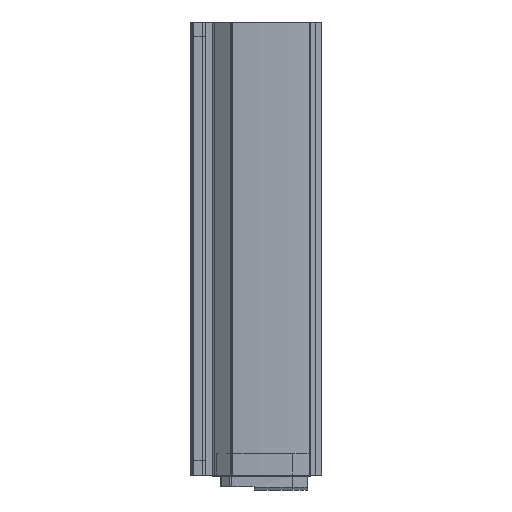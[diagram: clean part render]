
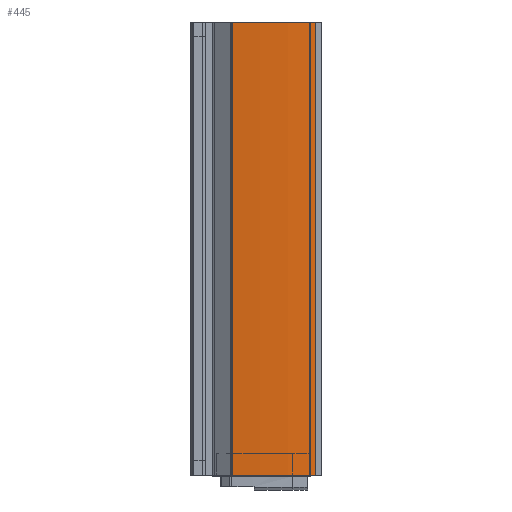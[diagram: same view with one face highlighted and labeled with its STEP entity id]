
A CAD part, left-side view. The second image highlights one B-rep face of the part: STEP entity #445.
In plain terms, the highlighted cylindrical face has radius 555.199 mm (diameter 1110.4 mm), a partial arc.
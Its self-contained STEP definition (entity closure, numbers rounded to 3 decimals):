
#200 = EDGE_CURVE ( 'NONE', #2764, #1303, #4459, .T. ) ;
#445 = ADVANCED_FACE ( 'NONE', ( #4231 ), #759, .T. ) ;
#759 = CYLINDRICAL_SURFACE ( 'NONE', #2257, 555.199 ) ;
#788 = ORIENTED_EDGE ( 'NONE', *, *, #200, .T. ) ;
#808 = CARTESIAN_POINT ( 'NONE',  ( 15., 92., 232.5 ) ) ;
#990 = LINE ( 'NONE', #3482, #2275 ) ;
#1152 = DIRECTION ( 'NONE',  ( -1., 0., 0. ) ) ;
#1229 = ORIENTED_EDGE ( 'NONE', *, *, #2894, .F. ) ;
#1303 = VERTEX_POINT ( 'NONE', #1953 ) ;
#1495 = CARTESIAN_POINT ( 'NONE',  ( 18., 6.2, -232.5 ) ) ;
#1616 = DIRECTION ( 'NONE',  ( 0., 0., 1. ) ) ;
#1649 = AXIS2_PLACEMENT_3D ( 'NONE', #3712, #1616, #1152 ) ;
#1657 = VERTEX_POINT ( 'NONE', #2282 ) ;
#1692 = ORIENTED_EDGE ( 'NONE', *, *, #3116, .T. ) ;
#1858 = VECTOR ( 'NONE', #1912, 1000. ) ;
#1912 = DIRECTION ( 'NONE',  ( 0., 0., -1. ) ) ;
#1953 = CARTESIAN_POINT ( 'NONE',  ( 15., 92., -232.5 ) ) ;
#2127 = EDGE_LOOP ( 'NONE', ( #788, #5341, #1229, #1692 ) ) ;
#2222 = CARTESIAN_POINT ( 'NONE',  ( -536.699, 29.757, 232.5 ) ) ;
#2257 = AXIS2_PLACEMENT_3D ( 'NONE', #2222, #6252, #3732 ) ;
#2275 = VECTOR ( 'NONE', #2914, 1000. ) ;
#2282 = CARTESIAN_POINT ( 'NONE',  ( 18., 6.2, 232.5 ) ) ;
#2764 = VERTEX_POINT ( 'NONE', #1495 ) ;
#2796 = CIRCLE ( 'NONE', #1649, 555.199 ) ;
#2894 = EDGE_CURVE ( 'NONE', #1657, #5332, #2796, .T. ) ;
#2914 = DIRECTION ( 'NONE',  ( 0., 0., -1. ) ) ;
#3116 = EDGE_CURVE ( 'NONE', #1657, #2764, #3485, .T. ) ;
#3482 = CARTESIAN_POINT ( 'NONE',  ( 15., 92., 232.5 ) ) ;
#3485 = LINE ( 'NONE', #6391, #1858 ) ;
#3712 = CARTESIAN_POINT ( 'NONE',  ( -536.699, 29.757, 232.5 ) ) ;
#3732 = DIRECTION ( 'NONE',  ( -1., 0., 0. ) ) ;
#4177 = EDGE_CURVE ( 'NONE', #5332, #1303, #990, .T. ) ;
#4231 = FACE_OUTER_BOUND ( 'NONE', #2127, .T. ) ;
#4459 = CIRCLE ( 'NONE', #6034, 555.199 ) ;
#4725 = DIRECTION ( 'NONE',  ( 0., 0., 1. ) ) ;
#5332 = VERTEX_POINT ( 'NONE', #808 ) ;
#5341 = ORIENTED_EDGE ( 'NONE', *, *, #4177, .F. ) ;
#5705 = CARTESIAN_POINT ( 'NONE',  ( -536.699, 29.757, -232.5 ) ) ;
#6034 = AXIS2_PLACEMENT_3D ( 'NONE', #5705, #4725, #6304 ) ;
#6252 = DIRECTION ( 'NONE',  ( 0., 0., -1. ) ) ;
#6304 = DIRECTION ( 'NONE',  ( -1., 0., 0. ) ) ;
#6391 = CARTESIAN_POINT ( 'NONE',  ( 18., 6.2, 232.5 ) ) ;
